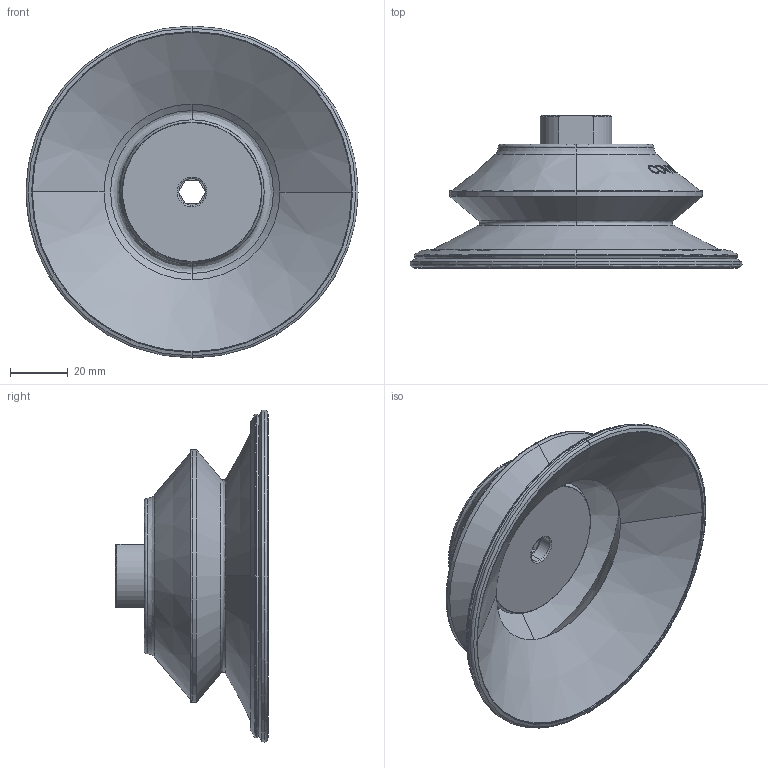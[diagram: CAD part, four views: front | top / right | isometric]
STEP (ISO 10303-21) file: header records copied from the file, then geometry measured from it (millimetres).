
FILE_DESCRIPTION (( 'STEP AP214' ), '1' );
FILE_NAME ('VBC115.STEP', '2019-11-26T03:33:05', ( '微软用户' ), ( '微软中国' ), 'SwSTEP 2.0', 'SolidWorks 2016', '' );
FILE_SCHEMA (( 'AUTOMOTIVE_DESIGN' ));
Length unit declared in the file: millimetre
Products named in the file (1): VBC115
Bounding box: 115 x 53 x 115 mm (x, y, z)
Volume: 77025.7 mm3; surface area: 42159.1 mm2
Topology: 1 solids, 1 shells, 137 faces, 323 edges, 200 vertices
Faces by surface type: bspline 69, cone 35, cylinder 18, plane 15
Entity records: 16985 total; most frequent: CARTESIAN_POINT 12631, ORIENTED_EDGE 646, DIRECTION 477, EDGE_CURVE 323, VERTEX_POINT 200, AXIS2_PLACEMENT_3D 183, EDGE_LOOP 151, UNCERTAINTY_MEASURE_WITH_UNIT 140
